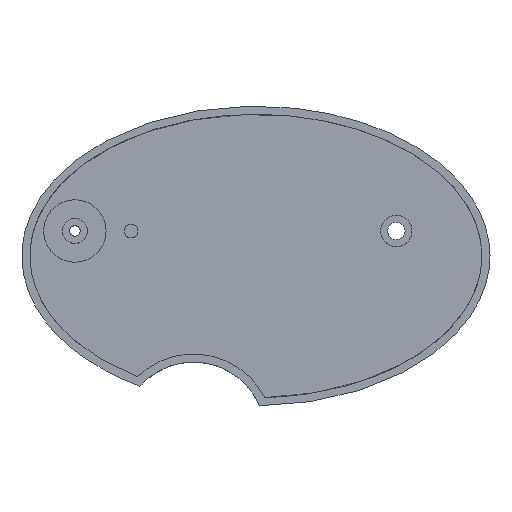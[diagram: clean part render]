
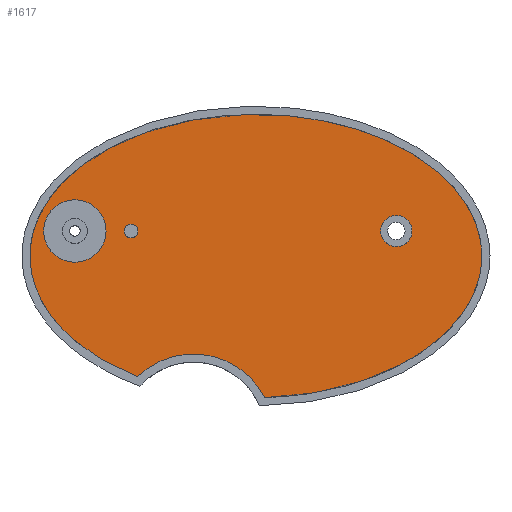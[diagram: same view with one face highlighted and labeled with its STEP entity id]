
A CAD part, top view. The second image highlights one B-rep face of the part: STEP entity #1617.
In plain terms, the highlighted planar face has unit normal (0, 0, 1).
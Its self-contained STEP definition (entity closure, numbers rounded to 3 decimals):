
#327 = CYLINDRICAL_SURFACE('',#328,25.6);
#328 = AXIS2_PLACEMENT_3D('',#329,#330,#331);
#329 = CARTESIAN_POINT('',(-20.,-57.,1.6));
#330 = DIRECTION('',(0.,0.,1.));
#331 = DIRECTION('',(1.,0.,-0.));
#701 = SURFACE_OF_LINEAR_EXTRUSION('',#702,#707);
#702 = ELLIPSE('',#703,72.4,45.4);
#703 = AXIS2_PLACEMENT_3D('',#704,#705,#706);
#704 = CARTESIAN_POINT('',(0.,0.,2.6));
#705 = DIRECTION('',(0.,0.,1.));
#706 = DIRECTION('',(1.,0.,-0.));
#707 = VECTOR('',#708,1.);
#708 = DIRECTION('',(-0.,-0.,-1.));
#1129 = VERTEX_POINT('',#1130);
#1130 = CARTESIAN_POINT('',(-37.888,-38.687,2.6));
#1159 = VERTEX_POINT('',#1160);
#1160 = CARTESIAN_POINT('',(2.804,-45.366,2.6));
#1187 = EDGE_CURVE('',#1159,#1129,#1188,.T.);
#1188 = SURFACE_CURVE('',#1189,(#1194,#1201),.PCURVE_S1.);
#1189 = CIRCLE('',#1190,25.6);
#1190 = AXIS2_PLACEMENT_3D('',#1191,#1192,#1193);
#1191 = CARTESIAN_POINT('',(-20.,-57.,2.6));
#1192 = DIRECTION('',(0.,0.,1.));
#1193 = DIRECTION('',(1.,0.,-0.));
#1194 = PCURVE('',#327,#1195);
#1195 = DEFINITIONAL_REPRESENTATION('',(#1196),#1200);
#1196 = LINE('',#1197,#1198);
#1197 = CARTESIAN_POINT('',(0.,1.));
#1198 = VECTOR('',#1199,1.);
#1199 = DIRECTION('',(1.,0.));
#1200 = ( GEOMETRIC_REPRESENTATION_CONTEXT(2) 
PARAMETRIC_REPRESENTATION_CONTEXT() REPRESENTATION_CONTEXT('2D SPACE',''
  ) );
#1201 = PCURVE('',#1202,#1207);
#1202 = PLANE('',#1203);
#1203 = AXIS2_PLACEMENT_3D('',#1204,#1205,#1206);
#1204 = CARTESIAN_POINT('',(4.31,0.,2.6));
#1205 = DIRECTION('',(0.,0.,1.));
#1206 = DIRECTION('',(1.,0.,-0.));
#1207 = DEFINITIONAL_REPRESENTATION('',(#1208),#1212);
#1208 = CIRCLE('',#1209,25.6);
#1209 = AXIS2_PLACEMENT_2D('',#1210,#1211);
#1210 = CARTESIAN_POINT('',(-24.31,-57.));
#1211 = DIRECTION('',(1.,0.));
#1212 = ( GEOMETRIC_REPRESENTATION_CONTEXT(2) 
PARAMETRIC_REPRESENTATION_CONTEXT() REPRESENTATION_CONTEXT('2D SPACE',''
  ) );
#1217 = EDGE_CURVE('',#1218,#1129,#1220,.T.);
#1218 = VERTEX_POINT('',#1219);
#1219 = CARTESIAN_POINT('',(72.4,0.,2.6));
#1220 = SURFACE_CURVE('',#1221,(#1226,#1232),.PCURVE_S1.);
#1221 = ELLIPSE('',#1222,72.4,45.4);
#1222 = AXIS2_PLACEMENT_3D('',#1223,#1224,#1225);
#1223 = CARTESIAN_POINT('',(0.,0.,2.6));
#1224 = DIRECTION('',(0.,0.,1.));
#1225 = DIRECTION('',(1.,0.,-0.));
#1226 = PCURVE('',#701,#1227);
#1227 = DEFINITIONAL_REPRESENTATION('',(#1228),#1231);
#1228 = B_SPLINE_CURVE_WITH_KNOTS('',1,(#1229,#1230),.UNSPECIFIED.,.F.,
  .F.,(2,2),(0.,4.162),.PIECEWISE_BEZIER_KNOTS.);
#1229 = CARTESIAN_POINT('',(6.283,0.));
#1230 = CARTESIAN_POINT('',(10.445,0.));
#1231 = ( GEOMETRIC_REPRESENTATION_CONTEXT(2) 
PARAMETRIC_REPRESENTATION_CONTEXT() REPRESENTATION_CONTEXT('2D SPACE',''
  ) );
#1232 = PCURVE('',#1202,#1233);
#1233 = DEFINITIONAL_REPRESENTATION('',(#1234),#1238);
#1234 = ELLIPSE('',#1235,72.4,45.4);
#1235 = AXIS2_PLACEMENT_2D('',#1236,#1237);
#1236 = CARTESIAN_POINT('',(-4.31,0.));
#1237 = DIRECTION('',(1.,0.));
#1238 = ( GEOMETRIC_REPRESENTATION_CONTEXT(2) 
PARAMETRIC_REPRESENTATION_CONTEXT() REPRESENTATION_CONTEXT('2D SPACE',''
  ) );
#1240 = EDGE_CURVE('',#1159,#1218,#1241,.T.);
#1241 = SURFACE_CURVE('',#1242,(#1247,#1253),.PCURVE_S1.);
#1242 = ELLIPSE('',#1243,72.4,45.4);
#1243 = AXIS2_PLACEMENT_3D('',#1244,#1245,#1246);
#1244 = CARTESIAN_POINT('',(0.,0.,2.6));
#1245 = DIRECTION('',(0.,0.,1.));
#1246 = DIRECTION('',(1.,0.,-0.));
#1247 = PCURVE('',#701,#1248);
#1248 = DEFINITIONAL_REPRESENTATION('',(#1249),#1252);
#1249 = B_SPLINE_CURVE_WITH_KNOTS('',1,(#1250,#1251),.UNSPECIFIED.,.F.,
  .F.,(2,2),(4.751,6.283),.PIECEWISE_BEZIER_KNOTS.);
#1250 = CARTESIAN_POINT('',(4.751,0.));
#1251 = CARTESIAN_POINT('',(6.283,0.));
#1252 = ( GEOMETRIC_REPRESENTATION_CONTEXT(2) 
PARAMETRIC_REPRESENTATION_CONTEXT() REPRESENTATION_CONTEXT('2D SPACE',''
  ) );
#1253 = PCURVE('',#1202,#1254);
#1254 = DEFINITIONAL_REPRESENTATION('',(#1255),#1259);
#1255 = ELLIPSE('',#1256,72.4,45.4);
#1256 = AXIS2_PLACEMENT_2D('',#1257,#1258);
#1257 = CARTESIAN_POINT('',(-4.31,0.));
#1258 = DIRECTION('',(1.,0.));
#1259 = ( GEOMETRIC_REPRESENTATION_CONTEXT(2) 
PARAMETRIC_REPRESENTATION_CONTEXT() REPRESENTATION_CONTEXT('2D SPACE',''
  ) );
#1617 = ADVANCED_FACE('',(#1618,#1623,#1654,#1685),#1202,.T.);
#1618 = FACE_BOUND('',#1619,.T.);
#1619 = EDGE_LOOP('',(#1620,#1621,#1622));
#1620 = ORIENTED_EDGE('',*,*,#1240,.T.);
#1621 = ORIENTED_EDGE('',*,*,#1217,.T.);
#1622 = ORIENTED_EDGE('',*,*,#1187,.F.);
#1623 = FACE_BOUND('',#1624,.T.);
#1624 = EDGE_LOOP('',(#1625));
#1625 = ORIENTED_EDGE('',*,*,#1626,.F.);
#1626 = EDGE_CURVE('',#1627,#1627,#1629,.T.);
#1627 = VERTEX_POINT('',#1628);
#1628 = CARTESIAN_POINT('',(-48.,8.,2.6));
#1629 = SURFACE_CURVE('',#1630,(#1635,#1642),.PCURVE_S1.);
#1630 = CIRCLE('',#1631,10.);
#1631 = AXIS2_PLACEMENT_3D('',#1632,#1633,#1634);
#1632 = CARTESIAN_POINT('',(-58.,8.,2.6));
#1633 = DIRECTION('',(0.,0.,1.));
#1634 = DIRECTION('',(1.,0.,-0.));
#1635 = PCURVE('',#1202,#1636);
#1636 = DEFINITIONAL_REPRESENTATION('',(#1637),#1641);
#1637 = CIRCLE('',#1638,10.);
#1638 = AXIS2_PLACEMENT_2D('',#1639,#1640);
#1639 = CARTESIAN_POINT('',(-62.31,8.));
#1640 = DIRECTION('',(1.,0.));
#1641 = ( GEOMETRIC_REPRESENTATION_CONTEXT(2) 
PARAMETRIC_REPRESENTATION_CONTEXT() REPRESENTATION_CONTEXT('2D SPACE',''
  ) );
#1642 = PCURVE('',#1643,#1648);
#1643 = CYLINDRICAL_SURFACE('',#1644,10.);
#1644 = AXIS2_PLACEMENT_3D('',#1645,#1646,#1647);
#1645 = CARTESIAN_POINT('',(-58.,8.,0.));
#1646 = DIRECTION('',(0.,0.,1.));
#1647 = DIRECTION('',(1.,0.,-0.));
#1648 = DEFINITIONAL_REPRESENTATION('',(#1649),#1653);
#1649 = LINE('',#1650,#1651);
#1650 = CARTESIAN_POINT('',(0.,2.6));
#1651 = VECTOR('',#1652,1.);
#1652 = DIRECTION('',(1.,0.));
#1653 = ( GEOMETRIC_REPRESENTATION_CONTEXT(2) 
PARAMETRIC_REPRESENTATION_CONTEXT() REPRESENTATION_CONTEXT('2D SPACE',''
  ) );
#1654 = FACE_BOUND('',#1655,.T.);
#1655 = EDGE_LOOP('',(#1656));
#1656 = ORIENTED_EDGE('',*,*,#1657,.F.);
#1657 = EDGE_CURVE('',#1658,#1658,#1660,.T.);
#1658 = VERTEX_POINT('',#1659);
#1659 = CARTESIAN_POINT('',(-37.8,8.,2.6));
#1660 = SURFACE_CURVE('',#1661,(#1666,#1673),.PCURVE_S1.);
#1661 = CIRCLE('',#1662,2.2);
#1662 = AXIS2_PLACEMENT_3D('',#1663,#1664,#1665);
#1663 = CARTESIAN_POINT('',(-40.,8.,2.6));
#1664 = DIRECTION('',(0.,0.,1.));
#1665 = DIRECTION('',(1.,0.,-0.));
#1666 = PCURVE('',#1202,#1667);
#1667 = DEFINITIONAL_REPRESENTATION('',(#1668),#1672);
#1668 = CIRCLE('',#1669,2.2);
#1669 = AXIS2_PLACEMENT_2D('',#1670,#1671);
#1670 = CARTESIAN_POINT('',(-44.31,8.));
#1671 = DIRECTION('',(1.,0.));
#1672 = ( GEOMETRIC_REPRESENTATION_CONTEXT(2) 
PARAMETRIC_REPRESENTATION_CONTEXT() REPRESENTATION_CONTEXT('2D SPACE',''
  ) );
#1673 = PCURVE('',#1674,#1679);
#1674 = CYLINDRICAL_SURFACE('',#1675,2.2);
#1675 = AXIS2_PLACEMENT_3D('',#1676,#1677,#1678);
#1676 = CARTESIAN_POINT('',(-40.,8.,0.));
#1677 = DIRECTION('',(0.,0.,1.));
#1678 = DIRECTION('',(1.,0.,-0.));
#1679 = DEFINITIONAL_REPRESENTATION('',(#1680),#1684);
#1680 = LINE('',#1681,#1682);
#1681 = CARTESIAN_POINT('',(0.,2.6));
#1682 = VECTOR('',#1683,1.);
#1683 = DIRECTION('',(1.,0.));
#1684 = ( GEOMETRIC_REPRESENTATION_CONTEXT(2) 
PARAMETRIC_REPRESENTATION_CONTEXT() REPRESENTATION_CONTEXT('2D SPACE',''
  ) );
#1685 = FACE_BOUND('',#1686,.T.);
#1686 = EDGE_LOOP('',(#1687));
#1687 = ORIENTED_EDGE('',*,*,#1688,.F.);
#1688 = EDGE_CURVE('',#1689,#1689,#1691,.T.);
#1689 = VERTEX_POINT('',#1690);
#1690 = CARTESIAN_POINT('',(50.,8.,2.6));
#1691 = SURFACE_CURVE('',#1692,(#1697,#1704),.PCURVE_S1.);
#1692 = CIRCLE('',#1693,5.);
#1693 = AXIS2_PLACEMENT_3D('',#1694,#1695,#1696);
#1694 = CARTESIAN_POINT('',(45.,8.,2.6));
#1695 = DIRECTION('',(0.,0.,1.));
#1696 = DIRECTION('',(1.,0.,-0.));
#1697 = PCURVE('',#1202,#1698);
#1698 = DEFINITIONAL_REPRESENTATION('',(#1699),#1703);
#1699 = CIRCLE('',#1700,5.);
#1700 = AXIS2_PLACEMENT_2D('',#1701,#1702);
#1701 = CARTESIAN_POINT('',(40.69,8.));
#1702 = DIRECTION('',(1.,0.));
#1703 = ( GEOMETRIC_REPRESENTATION_CONTEXT(2) 
PARAMETRIC_REPRESENTATION_CONTEXT() REPRESENTATION_CONTEXT('2D SPACE',''
  ) );
#1704 = PCURVE('',#1705,#1710);
#1705 = CYLINDRICAL_SURFACE('',#1706,5.);
#1706 = AXIS2_PLACEMENT_3D('',#1707,#1708,#1709);
#1707 = CARTESIAN_POINT('',(45.,8.,0.));
#1708 = DIRECTION('',(0.,0.,1.));
#1709 = DIRECTION('',(1.,0.,-0.));
#1710 = DEFINITIONAL_REPRESENTATION('',(#1711),#1715);
#1711 = LINE('',#1712,#1713);
#1712 = CARTESIAN_POINT('',(0.,2.6));
#1713 = VECTOR('',#1714,1.);
#1714 = DIRECTION('',(1.,0.));
#1715 = ( GEOMETRIC_REPRESENTATION_CONTEXT(2) 
PARAMETRIC_REPRESENTATION_CONTEXT() REPRESENTATION_CONTEXT('2D SPACE',''
  ) );
